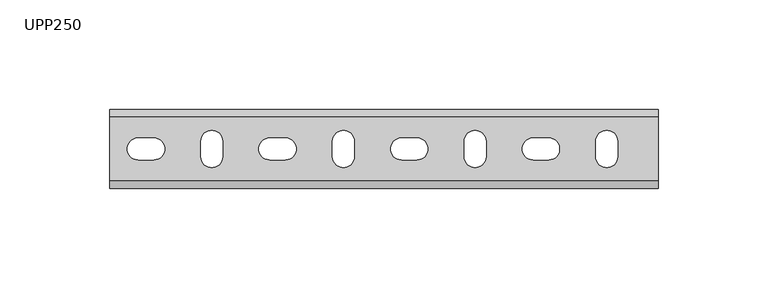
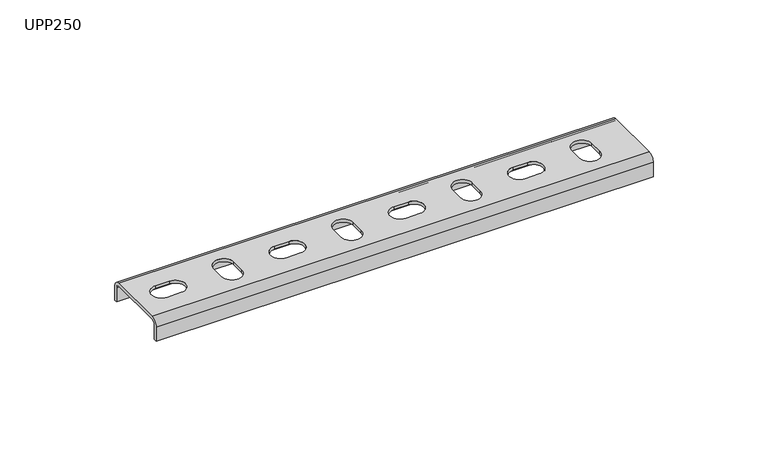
"""IFC4 building model written with IfcOpenShell, lengths in millimetres: proxy geometry, КМ Профиль_Универсальный поддерживающий профиль UPP : UPP250."""

from ifc_helpers import new_model, si_unit, frame, origin, place, context, project, spatial, polyline, circle_curve, source, transform, mapped, element, save
from ifc_brep_helpers import plane_surface, cylinder_surface, revolved_surface, advanced_brep


def upp250_bc306a6a(model_context):
    return source(origin(), model_context, "Body", "AdvancedBrep", [
        advanced_brep(
        [(0.0, 16.5, -3.5), (0.0, 14.5, -1.5), (0.0, -14.5, -1.5), (0.0, -16.5, -3.5), (0.0, -16.5, -11.0), (0.0, -18.0, -11.0), (0.0, -18.0, -3.5), (0.0, -14.5, 0.0), (0.0, 14.5, 0.0), (0.0, 18.0, -3.5), (0.0, 18.0, -11.0), (0.0, 16.5, -11.0), (250.0, 14.5, -1.5), (250.0, 16.5, -3.5), (250.0, 16.5, -11.0), (250.0, 18.0, -11.0), (250.0, 18.0, -3.5), (250.0, 14.5, 0.0), (250.0, -14.5, 0.0), (250.0, -18.0, -3.5), (250.0, -18.0, -11.0), (250.0, -16.5, -11.0), (250.0, -16.5, -3.5), (250.0, -14.5, -1.5), (80.0, 5.0, -1.5), (73.0, 5.0, -1.5), (73.0, -5.0, -1.5), (80.0, -5.0, -1.5), (140.0, 5.0, -1.5), (133.0, 5.0, -1.5), (133.0, -5.0, -1.5), (140.0, -5.0, -1.5), (101.5, 3.5, -1.5), (101.5, -3.5, -1.5), (111.5, -3.5, -1.5), (111.5, 3.5, -1.5), (200.0, 5.0, -1.5), (193.0, 5.0, -1.5), (193.0, -5.0, -1.5), (200.0, -5.0, -1.5), (161.5, 3.5, -1.5), (161.5, -3.5, -1.5), (171.5, -3.5, -1.5), (171.5, 3.5, -1.5), (221.5, 3.5, -1.5), (221.5, -3.5, -1.5), (231.5, -3.5, -1.5), (231.5, 3.5, -1.5), (41.5, 3.5, -1.5), (41.5, -3.5, -1.5), (51.5, -3.5, -1.5), (51.5, 3.5, -1.5), (20.0, 5.0, -1.5), (13.0, 5.0, -1.5), (13.0, -5.0, -1.5), (20.0, -5.0, -1.5), (73.0, 5.0, 0.0), (80.0, 5.0, 0.0), (80.0, -5.0, 0.0), (73.0, -5.0, 0.0), (133.0, 5.0, 0.0), (140.0, 5.0, 0.0), (140.0, -5.0, 0.0), (133.0, -5.0, 0.0), (101.5, -3.5, 0.0), (101.5, 3.5, 0.0), (111.5, 3.5, 0.0), (111.5, -3.5, 0.0), (193.0, 5.0, 0.0), (200.0, 5.0, 0.0), (200.0, -5.0, 0.0), (193.0, -5.0, 0.0), (161.5, -3.5, 0.0), (161.5, 3.5, 0.0), (171.5, 3.5, 0.0), (171.5, -3.5, 0.0), (221.5, -3.5, 0.0), (221.5, 3.5, 0.0), (231.5, 3.5, 0.0), (231.5, -3.5, 0.0), (41.5, -3.5, 0.0), (41.5, 3.5, 0.0), (51.5, 3.5, 0.0), (51.5, -3.5, 0.0), (13.0, 5.0, 0.0), (20.0, 5.0, 0.0), (20.0, -5.0, 0.0), (13.0, -5.0, 0.0)],
        [
            (0, 1, circle_curve(frame((0.0, 14.5, -3.5), z_axis=(1.0, 0.0, 0.0), x_axis=(0.0, 1.0, 0.0)), 2.0)),
            (1, 2),
            (2, 3, circle_curve(frame((0.0, -14.5, -3.5), z_axis=(1.0, 0.0, 0.0), x_axis=(0.0, 1.0, 0.0)), 2.0)),
            (3, 4),
            (4, 5),
            (5, 6),
            (6, 7, circle_curve(frame((0.0, -14.5, -3.5), z_axis=(-1.0, 0.0, 0.0), x_axis=(0.0, 1.0, 0.0)), 3.5)),
            (7, 8),
            (8, 9, circle_curve(frame((0.0, 14.5, -3.5), z_axis=(-1.0, 0.0, 0.0), x_axis=(0.0, 1.0, 0.0)), 3.5)),
            (9, 10),
            (10, 11),
            (11, 0),
            (12, 13, circle_curve(frame((250.0, 14.5, -3.5), z_axis=(-1.0, 0.0, 0.0), x_axis=(0.0, 1.0, 0.0)), 2.0)),
            (13, 14),
            (14, 15),
            (15, 16),
            (16, 17, circle_curve(frame((250.0, 14.5, -3.5), z_axis=(1.0, 0.0, 0.0), x_axis=(0.0, 1.0, 0.0)), 3.5)),
            (17, 18),
            (18, 19, circle_curve(frame((250.0, -14.5, -3.5), z_axis=(1.0, 0.0, 0.0), x_axis=(0.0, 1.0, 0.0)), 3.5)),
            (19, 20),
            (20, 21),
            (21, 22),
            (22, 23, circle_curve(frame((250.0, -14.5, -3.5), z_axis=(-1.0, 0.0, 0.0), x_axis=(0.0, 1.0, 0.0)), 2.0)),
            (23, 12),
            (0, 13),
            (12, 1),
            (23, 2),
            (24, 25),
            (25, 26, circle_curve(frame((73.0, 0.0, -1.5), z_axis=(0.0, 0.0, 1.0), x_axis=(1.0, 0.0, 0.0)), 5.0)),
            (26, 27),
            (27, 24, circle_curve(frame((80.0, 0.0, -1.5), z_axis=(0.0, 0.0, 1.0), x_axis=(1.0, 0.0, 0.0)), 5.0)),
            (28, 29),
            (29, 30, circle_curve(frame((133.0, 0.0, -1.5), z_axis=(0.0, 0.0, 1.0), x_axis=(1.0, 0.0, 0.0)), 5.0)),
            (30, 31),
            (31, 28, circle_curve(frame((140.0, 0.0, -1.5), z_axis=(0.0, 0.0, 1.0), x_axis=(1.0, 0.0, 0.0)), 5.0)),
            (32, 33),
            (33, 34, circle_curve(frame((106.5, -3.5, -1.5), z_axis=(0.0, 0.0, 1.0), x_axis=(0.0, 1.0, 0.0)), 5.0)),
            (34, 35),
            (35, 32, circle_curve(frame((106.5, 3.5, -1.5), z_axis=(0.0, 0.0, 1.0), x_axis=(0.0, 1.0, 0.0)), 5.0)),
            (36, 37),
            (37, 38, circle_curve(frame((193.0, 0.0, -1.5), z_axis=(0.0, 0.0, 1.0), x_axis=(1.0, 0.0, 0.0)), 5.0)),
            (38, 39),
            (39, 36, circle_curve(frame((200.0, 0.0, -1.5), z_axis=(0.0, 0.0, 1.0), x_axis=(1.0, 0.0, 0.0)), 5.0)),
            (40, 41),
            (41, 42, circle_curve(frame((166.5, -3.5, -1.5), z_axis=(0.0, 0.0, 1.0), x_axis=(0.0, 1.0, 0.0)), 5.0)),
            (42, 43),
            (43, 40, circle_curve(frame((166.5, 3.5, -1.5), z_axis=(0.0, 0.0, 1.0), x_axis=(0.0, 1.0, 0.0)), 5.0)),
            (44, 45),
            (45, 46, circle_curve(frame((226.5, -3.5, -1.5), z_axis=(0.0, 0.0, 1.0), x_axis=(0.0, 1.0, 0.0)), 5.0)),
            (46, 47),
            (47, 44, circle_curve(frame((226.5, 3.5, -1.5), z_axis=(0.0, 0.0, 1.0), x_axis=(0.0, 1.0, 0.0)), 5.0)),
            (48, 49),
            (49, 50, circle_curve(frame((46.5, -3.5, -1.5), z_axis=(0.0, 0.0, 1.0), x_axis=(0.0, 1.0, 0.0)), 5.0)),
            (50, 51),
            (51, 48, circle_curve(frame((46.5, 3.5, -1.5), z_axis=(0.0, 0.0, 1.0), x_axis=(0.0, 1.0, 0.0)), 5.0)),
            (52, 53),
            (53, 54, circle_curve(frame((13.0, 0.0, -1.5), z_axis=(0.0, 0.0, 1.0), x_axis=(1.0, 0.0, 0.0)), 5.0)),
            (54, 55),
            (55, 52, circle_curve(frame((20.0, 0.0, -1.5), z_axis=(0.0, 0.0, 1.0), x_axis=(1.0, 0.0, 0.0)), 5.0)),
            (22, 3),
            (21, 4),
            (20, 5),
            (19, 6),
            (18, 7),
            (17, 8),
            (56, 57),
            (57, 58, circle_curve(frame((80.0, 0.0, 0.0), z_axis=(0.0, 0.0, -1.0), x_axis=(1.0, 0.0, 0.0)), 5.0)),
            (58, 59),
            (59, 56, circle_curve(frame((73.0, 0.0, 0.0), z_axis=(0.0, 0.0, -1.0), x_axis=(1.0, 0.0, 0.0)), 5.0)),
            (60, 61),
            (61, 62, circle_curve(frame((140.0, 0.0, 0.0), z_axis=(0.0, 0.0, -1.0), x_axis=(1.0, 0.0, 0.0)), 5.0)),
            (62, 63),
            (63, 60, circle_curve(frame((133.0, 0.0, 0.0), z_axis=(0.0, 0.0, -1.0), x_axis=(1.0, 0.0, 0.0)), 5.0)),
            (64, 65),
            (65, 66, circle_curve(frame((106.5, 3.5, 0.0), z_axis=(0.0, 0.0, -1.0), x_axis=(0.0, 1.0, 0.0)), 5.0)),
            (66, 67),
            (67, 64, circle_curve(frame((106.5, -3.5, 0.0), z_axis=(0.0, 0.0, -1.0), x_axis=(0.0, 1.0, 0.0)), 5.0)),
            (68, 69),
            (69, 70, circle_curve(frame((200.0, 0.0, 0.0), z_axis=(0.0, 0.0, -1.0), x_axis=(1.0, 0.0, 0.0)), 5.0)),
            (70, 71),
            (71, 68, circle_curve(frame((193.0, 0.0, 0.0), z_axis=(0.0, 0.0, -1.0), x_axis=(1.0, 0.0, 0.0)), 5.0)),
            (72, 73),
            (73, 74, circle_curve(frame((166.5, 3.5, 0.0), z_axis=(0.0, 0.0, -1.0), x_axis=(0.0, 1.0, 0.0)), 5.0)),
            (74, 75),
            (75, 72, circle_curve(frame((166.5, -3.5, 0.0), z_axis=(0.0, 0.0, -1.0), x_axis=(0.0, 1.0, 0.0)), 5.0)),
            (76, 77),
            (77, 78, circle_curve(frame((226.5, 3.5, 0.0), z_axis=(0.0, 0.0, -1.0), x_axis=(0.0, 1.0, 0.0)), 5.0)),
            (78, 79),
            (79, 76, circle_curve(frame((226.5, -3.5, 0.0), z_axis=(0.0, 0.0, -1.0), x_axis=(0.0, 1.0, 0.0)), 5.0)),
            (80, 81),
            (81, 82, circle_curve(frame((46.5, 3.5, 0.0), z_axis=(0.0, 0.0, -1.0), x_axis=(0.0, 1.0, 0.0)), 5.0)),
            (82, 83),
            (83, 80, circle_curve(frame((46.5, -3.5, 0.0), z_axis=(0.0, 0.0, -1.0), x_axis=(0.0, 1.0, 0.0)), 5.0)),
            (84, 85),
            (85, 86, circle_curve(frame((20.0, 0.0, 0.0), z_axis=(0.0, 0.0, -1.0), x_axis=(1.0, 0.0, 0.0)), 5.0)),
            (86, 87),
            (87, 84, circle_curve(frame((13.0, 0.0, 0.0), z_axis=(0.0, 0.0, -1.0), x_axis=(1.0, 0.0, 0.0)), 5.0)),
            (16, 9),
            (15, 10),
            (14, 11),
            (56, 25),
            (24, 57),
            (59, 26),
            (58, 27),
            (60, 29),
            (28, 61),
            (63, 30),
            (62, 31),
            (64, 33),
            (32, 65),
            (67, 34),
            (66, 35),
            (68, 37),
            (36, 69),
            (71, 38),
            (70, 39),
            (72, 41),
            (40, 73),
            (75, 42),
            (74, 43),
            (76, 45),
            (44, 77),
            (79, 46),
            (78, 47),
            (80, 49),
            (48, 81),
            (83, 50),
            (82, 51),
            (84, 53),
            (52, 85),
            (87, 54),
            (86, 55),
        ],
        [
            plane_surface(frame((0.0, 0.0, 0.0), z_axis=(-1.0, 0.0, 0.0), x_axis=(0.0, 0.0, 1.0))),
            plane_surface(frame((250.0, 0.0, 0.0), z_axis=(1.0, 0.0, 0.0), x_axis=(0.0, 0.0, 1.0))),
            revolved_surface(polyline([(250.0, 16.5, -3.5), (0.0, 16.5, -3.5)]), (0.0, 14.5, -3.5), (1.0, 0.0, 0.0)),
            plane_surface(frame((0.0, 14.5, -1.5), z_axis=(0.0, 0.0, -1.0), x_axis=(1.0, 0.0, 0.0))),
            revolved_surface(polyline([(250.0, -12.5, -3.5), (0.0, -12.5, -3.5)]), (0.0, -14.5, -3.5), (1.0, 0.0, 0.0)),
            plane_surface(frame((0.0, -16.5, -3.5), z_axis=(0.0, 1.0, 0.0), x_axis=(1.0, 0.0, 0.0))),
            plane_surface(frame((0.0, -16.5, -11.0), z_axis=(0.0, 0.0, -1.0), x_axis=(1.0, 0.0, 0.0))),
            plane_surface(frame((0.0, -18.0, -11.0), z_axis=(0.0, -1.0, 0.0), x_axis=(1.0, 0.0, 0.0))),
            cylinder_surface(frame((0.0, -14.5, -3.5), z_axis=(-1.0, 0.0, 0.0), x_axis=(0.0, 1.0, 0.0)), 3.5),
            plane_surface(frame((0.0, -14.5, 0.0), z_axis=(0.0, 0.0, 1.0), x_axis=(1.0, 0.0, 0.0))),
            cylinder_surface(frame((0.0, 14.5, -3.5), z_axis=(-1.0, 0.0, 0.0), x_axis=(0.0, 1.0, 0.0)), 3.5),
            plane_surface(frame((0.0, 18.0, -3.5), z_axis=(0.0, 1.0, 0.0), x_axis=(1.0, 0.0, 0.0))),
            plane_surface(frame((0.0, 18.0, -11.0), z_axis=(0.0, 0.0, -1.0), x_axis=(1.0, 0.0, 0.0))),
            plane_surface(frame((0.0, 16.5, -11.0), z_axis=(0.0, -1.0, 0.0), x_axis=(1.0, 0.0, 0.0))),
            plane_surface(frame((80.0, 5.0, 0.0), z_axis=(0.0, -1.0, 0.0), x_axis=(0.0, 0.0, -1.0))),
            revolved_surface(polyline([(78.0, 0.0, 0.0), (78.0, 0.0, -1.5)]), (73.0, 0.0, -1.5), (0.0, 0.0, 1.0)),
            plane_surface(frame((73.0, -5.0, 0.0), z_axis=(0.0, 1.0, 0.0), x_axis=(0.0, 0.0, -1.0))),
            revolved_surface(polyline([(85.0, 0.0, 0.0), (85.0, 0.0, -1.5)]), (80.0, 0.0, -1.5), (0.0, 0.0, 1.0)),
            plane_surface(frame((140.0, 5.0, 0.0), z_axis=(0.0, -1.0, 0.0), x_axis=(0.0, 0.0, -1.0))),
            revolved_surface(polyline([(138.0, 0.0, 0.0), (138.0, 0.0, -1.5)]), (133.0, 0.0, -1.5), (0.0, 0.0, 1.0)),
            plane_surface(frame((133.0, -5.0, 0.0), z_axis=(0.0, 1.0, 0.0), x_axis=(0.0, 0.0, -1.0))),
            revolved_surface(polyline([(145.0, 0.0, 0.0), (145.0, 0.0, -1.5)]), (140.0, 0.0, -1.5), (0.0, 0.0, 1.0)),
            plane_surface(frame((101.5, 3.5, 0.0), z_axis=(1.0, 0.0, 0.0), x_axis=(0.0, 0.0, -1.0))),
            revolved_surface(polyline([(106.5, 1.5, 0.0), (106.5, 1.5, -1.5)]), (106.5, -3.5, -1.5), (0.0, 0.0, 1.0)),
            plane_surface(frame((111.5, -3.5, 0.0), z_axis=(-1.0, 0.0, 0.0), x_axis=(0.0, 0.0, -1.0))),
            revolved_surface(polyline([(106.5, 8.5, 0.0), (106.5, 8.5, -1.5)]), (106.5, 3.5, -1.5), (0.0, 0.0, 1.0)),
            plane_surface(frame((200.0, 5.0, 0.0), z_axis=(0.0, -1.0, 0.0), x_axis=(0.0, 0.0, -1.0))),
            revolved_surface(polyline([(198.0, 0.0, 0.0), (198.0, 0.0, -1.5)]), (193.0, 0.0, -1.5), (0.0, 0.0, 1.0)),
            plane_surface(frame((193.0, -5.0, 0.0), z_axis=(0.0, 1.0, 0.0), x_axis=(0.0, 0.0, -1.0))),
            revolved_surface(polyline([(205.0, 0.0, 0.0), (205.0, 0.0, -1.5)]), (200.0, 0.0, -1.5), (0.0, 0.0, 1.0)),
            plane_surface(frame((161.5, 3.5, 0.0), z_axis=(1.0, 0.0, 0.0), x_axis=(0.0, 0.0, -1.0))),
            revolved_surface(polyline([(166.5, 1.5, 0.0), (166.5, 1.5, -1.5)]), (166.5, -3.5, -1.5), (0.0, 0.0, 1.0)),
            plane_surface(frame((171.5, -3.5, 0.0), z_axis=(-1.0, 0.0, 0.0), x_axis=(0.0, 0.0, -1.0))),
            revolved_surface(polyline([(166.5, 8.5, 0.0), (166.5, 8.5, -1.5)]), (166.5, 3.5, -1.5), (0.0, 0.0, 1.0)),
            plane_surface(frame((221.5, 3.5, 0.0), z_axis=(1.0, 0.0, 0.0), x_axis=(0.0, 0.0, -1.0))),
            revolved_surface(polyline([(226.5, 1.5, 0.0), (226.5, 1.5, -1.5)]), (226.5, -3.5, -1.5), (0.0, 0.0, 1.0)),
            plane_surface(frame((231.5, -3.5, 0.0), z_axis=(-1.0, 0.0, 0.0), x_axis=(0.0, 0.0, -1.0))),
            revolved_surface(polyline([(226.5, 8.5, 0.0), (226.5, 8.5, -1.5)]), (226.5, 3.5, -1.5), (0.0, 0.0, 1.0)),
            plane_surface(frame((41.5, 3.5, 0.0), z_axis=(1.0, 0.0, 0.0), x_axis=(0.0, 0.0, -1.0))),
            revolved_surface(polyline([(46.5, 1.5, 0.0), (46.5, 1.5, -1.5)]), (46.5, -3.5, -1.5), (0.0, 0.0, 1.0)),
            plane_surface(frame((51.5, -3.5, 0.0), z_axis=(-1.0, 0.0, 0.0), x_axis=(0.0, 0.0, -1.0))),
            revolved_surface(polyline([(46.5, 8.5, 0.0), (46.5, 8.5, -1.5)]), (46.5, 3.5, -1.5), (0.0, 0.0, 1.0)),
            plane_surface(frame((20.0, 5.0, 0.0), z_axis=(0.0, -1.0, 0.0), x_axis=(0.0, 0.0, -1.0))),
            revolved_surface(polyline([(18.0, 0.0, 0.0), (18.0, 0.0, -1.5)]), (13.0, 0.0, -1.5), (0.0, 0.0, 1.0)),
            plane_surface(frame((13.0, -5.0, 0.0), z_axis=(0.0, 1.0, 0.0), x_axis=(0.0, 0.0, -1.0))),
            revolved_surface(polyline([(25.0, 0.0, 0.0), (25.0, 0.0, -1.5)]), (20.0, 0.0, -1.5), (0.0, 0.0, 1.0)),
        ],
        [
            (0, [[1, 2, 3, 4, 5, 6, 7, 8, 9, 10, 11, 12]]),
            (1, [[13, 14, 15, 16, 17, 18, 19, 20, 21, 22, 23, 24]]),
            (2, [[-1, 25, -13, 26]]),
            (3, [[-2, -26, -24, 27], [28, 29, 30, 31], [32, 33, 34, 35], [36, 37, 38, 39], [40, 41, 42, 43], [44, 45, 46, 47], [48, 49, 50, 51], [52, 53, 54, 55], [56, 57, 58, 59]]),
            (4, [[-3, -27, -23, 60]]),
            (5, [[-4, -60, -22, 61]]),
            (6, [[-5, -61, -21, 62]]),
            (7, [[-6, -62, -20, 63]]),
            (8, [[-7, -63, -19, 64]]),
            (9, [[-8, -64, -18, 65], [66, 67, 68, 69], [70, 71, 72, 73], [74, 75, 76, 77], [78, 79, 80, 81], [82, 83, 84, 85], [86, 87, 88, 89], [90, 91, 92, 93], [94, 95, 96, 97]]),
            (10, [[-9, -65, -17, 98]]),
            (11, [[-10, -98, -16, 99]]),
            (12, [[-11, -99, -15, 100]]),
            (13, [[-12, -100, -14, -25]]),
            (14, [[101, -28, 102, -66]]),
            (15, [[-101, -69, 103, -29]]),
            (16, [[-103, -68, 104, -30]]),
            (17, [[-102, -31, -104, -67]]),
            (18, [[105, -32, 106, -70]]),
            (19, [[-105, -73, 107, -33]]),
            (20, [[-107, -72, 108, -34]]),
            (21, [[-106, -35, -108, -71]]),
            (22, [[109, -36, 110, -74]]),
            (23, [[-109, -77, 111, -37]]),
            (24, [[-111, -76, 112, -38]]),
            (25, [[-110, -39, -112, -75]]),
            (26, [[113, -40, 114, -78]]),
            (27, [[-113, -81, 115, -41]]),
            (28, [[-115, -80, 116, -42]]),
            (29, [[-114, -43, -116, -79]]),
            (30, [[117, -44, 118, -82]]),
            (31, [[-117, -85, 119, -45]]),
            (32, [[-119, -84, 120, -46]]),
            (33, [[-118, -47, -120, -83]]),
            (34, [[121, -48, 122, -86]]),
            (35, [[-121, -89, 123, -49]]),
            (36, [[-123, -88, 124, -50]]),
            (37, [[-122, -51, -124, -87]]),
            (38, [[125, -52, 126, -90]]),
            (39, [[-125, -93, 127, -53]]),
            (40, [[-127, -92, 128, -54]]),
            (41, [[-126, -55, -128, -91]]),
            (42, [[129, -56, 130, -94]]),
            (43, [[-129, -97, 131, -57]]),
            (44, [[-131, -96, 132, -58]]),
            (45, [[-130, -59, -132, -95]]),
        ],
    ),
    ])


if __name__ == "__main__":
    model = new_model("IFC4")
    model_context = context("Model", 3, world=origin())
    ifc_project = project(units=[si_unit("LENGTHUNIT", "METRE", prefix="MILLI")], contexts=[model_context])
    site = spatial("IfcSite", under=ifc_project)
    building = spatial("IfcBuilding", under=site)
    placement = place(None, origin())
    upp250_shape = upp250_bc306a6a(model_context)
    element("IfcBuildingElementProxy", 1, Name="КМ Профиль_Универсальный поддерживающий профиль UPP : UPP250", ObjectType="КМ Профиль_Универсальный поддерживающий профиль UPP : UPP250", at=placement, inside=building, context=model_context, shape_type="MappedRepresentation", body=[
        mapped(upp250_shape, transform((0.0, 0.0, 0.0), x_axis=(1.0, 0.0, 0.0), y_axis=(0.0, 1.0, 0.0), z_axis=(0.0, 0.0, 1.0))),
    ])
    save(model, "model.ifc")
